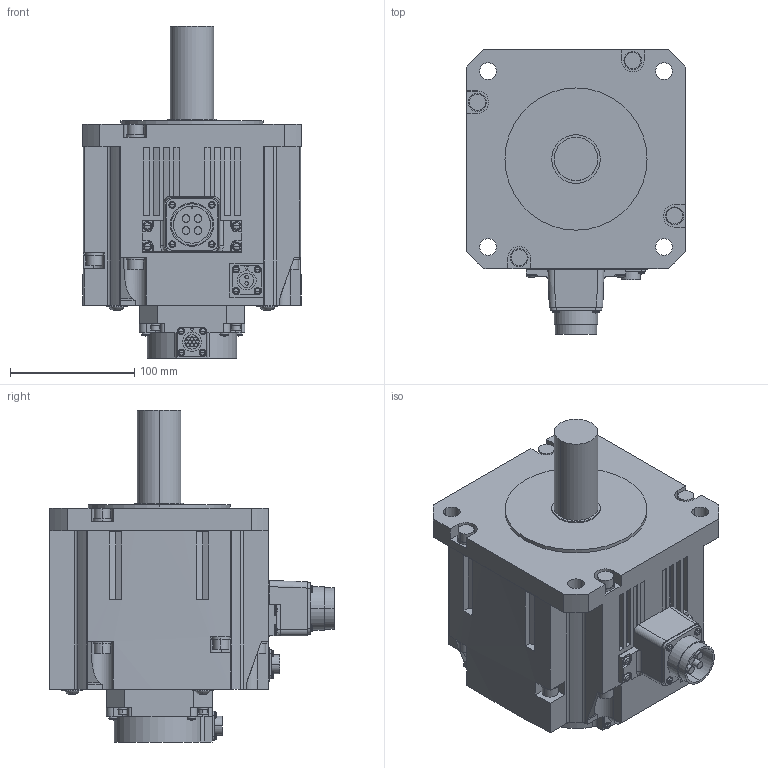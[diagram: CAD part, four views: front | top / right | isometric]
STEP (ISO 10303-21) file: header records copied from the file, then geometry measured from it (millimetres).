
FILE_DESCRIPTION((''),'2;1');
FILE_NAME('HK-ST202WB_','2019-01-18T',('XE90682'),(''),'CREO PARAMETRIC BY PTC INC, 2016380','CREO PARAMETRIC BY PTC INC, 2016380','');
FILE_SCHEMA(('CONFIG_CONTROL_DESIGN'));
Length unit declared in the file: millimetre
Products named in the file (1): HK-ST202WB_
Bounding box: 176 x 228.8 x 267 mm (x, y, z)
Volume: 4363982.1 mm3; surface area: 215463.1 mm2
Topology: 1 solids, 1 shells, 645 faces, 1570 edges, 994 vertices
Faces by surface type: plane 306, cylinder 247, sphere 46, torus 40, cone 4, bspline 2
Entity records: 19407 total; most frequent: CARTESIAN_POINT 3832, DIRECTION 3454, ORIENTED_EDGE 3060, EDGE_CURVE 1530, AXIS2_PLACEMENT_3D 1301, VERTEX_POINT 994, VECTOR 852, LINE 852
